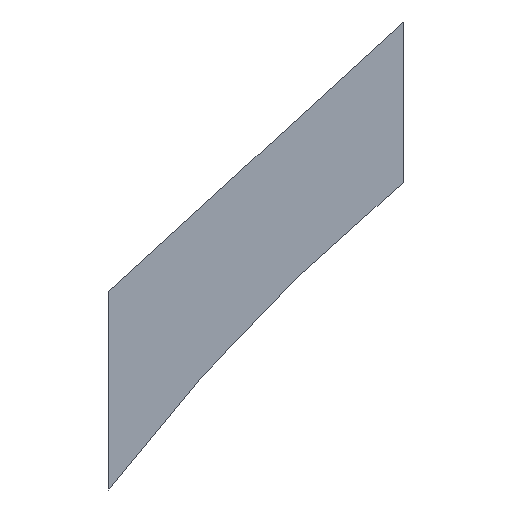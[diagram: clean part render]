
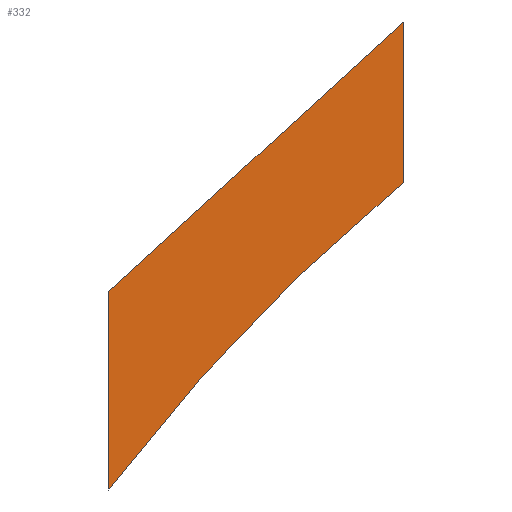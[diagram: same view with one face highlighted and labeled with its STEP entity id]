
A CAD part, left-side view. The second image highlights one B-rep face of the part: STEP entity #332.
In plain terms, the highlighted planar face has unit normal (-1, 0, 0).
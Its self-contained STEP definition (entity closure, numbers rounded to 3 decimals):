
#45 = CYLINDRICAL_SURFACE('',#46,17.7);
#46 = AXIS2_PLACEMENT_3D('',#47,#48,#49);
#47 = CARTESIAN_POINT('',(95.3,0.,0.));
#48 = DIRECTION('',(1.,0.,0.));
#49 = DIRECTION('',(-0.,0.,1.));
#73 = PLANE('',#74);
#74 = AXIS2_PLACEMENT_3D('',#75,#76,#77);
#75 = CARTESIAN_POINT('',(96.3,14.1,0.));
#76 = DIRECTION('',(-0.,1.,0.));
#77 = DIRECTION('',(0.,0.,1.));
#101 = PLANE('',#102);
#102 = AXIS2_PLACEMENT_3D('',#103,#104,#105);
#103 = CARTESIAN_POINT('',(96.3,-3.45,28.657));
#104 = DIRECTION('',(-0.,0.675,0.737));
#105 = DIRECTION('',(0.,0.737,-0.675));
#127 = PLANE('',#128);
#128 = AXIS2_PLACEMENT_3D('',#129,#130,#131);
#129 = CARTESIAN_POINT('',(96.3,11.3,0.));
#130 = DIRECTION('',(-0.,1.,0.));
#131 = DIRECTION('',(0.,0.,1.));
#144 = VERTEX_POINT('',#145);
#145 = CARTESIAN_POINT('',(96.3,14.1,10.7));
#164 = EDGE_CURVE('',#144,#165,#167,.T.);
#165 = VERTEX_POINT('',#166);
#166 = CARTESIAN_POINT('',(96.3,11.3,13.624));
#167 = SURFACE_CURVE('',#168,(#173,#180),.PCURVE_S1.);
#168 = CIRCLE('',#169,17.7);
#169 = AXIS2_PLACEMENT_3D('',#170,#171,#172);
#170 = CARTESIAN_POINT('',(96.3,0.,0.));
#171 = DIRECTION('',(1.,0.,0.));
#172 = DIRECTION('',(-0.,0.,1.));
#173 = PCURVE('',#45,#174);
#174 = DEFINITIONAL_REPRESENTATION('',(#175),#179);
#175 = LINE('',#176,#177);
#176 = CARTESIAN_POINT('',(0.,1.));
#177 = VECTOR('',#178,1.);
#178 = DIRECTION('',(1.,0.));
#179 = ( GEOMETRIC_REPRESENTATION_CONTEXT(2) 
PARAMETRIC_REPRESENTATION_CONTEXT() REPRESENTATION_CONTEXT('2D SPACE',''
  ) );
#180 = PCURVE('',#181,#186);
#181 = PLANE('',#182);
#182 = AXIS2_PLACEMENT_3D('',#183,#184,#185);
#183 = CARTESIAN_POINT('',(96.3,0.,0.));
#184 = DIRECTION('',(1.,0.,0.));
#185 = DIRECTION('',(-0.,0.,1.));
#186 = DEFINITIONAL_REPRESENTATION('',(#187),#191);
#187 = CIRCLE('',#188,17.7);
#188 = AXIS2_PLACEMENT_2D('',#189,#190);
#189 = CARTESIAN_POINT('',(0.,0.));
#190 = DIRECTION('',(1.,0.));
#191 = ( GEOMETRIC_REPRESENTATION_CONTEXT(2) 
PARAMETRIC_REPRESENTATION_CONTEXT() REPRESENTATION_CONTEXT('2D SPACE',''
  ) );
#217 = EDGE_CURVE('',#165,#218,#220,.T.);
#218 = VERTEX_POINT('',#219);
#219 = CARTESIAN_POINT('',(96.3,11.3,15.15));
#220 = SURFACE_CURVE('',#221,(#225,#232),.PCURVE_S1.);
#221 = LINE('',#222,#223);
#222 = CARTESIAN_POINT('',(96.3,11.3,0.));
#223 = VECTOR('',#224,1.);
#224 = DIRECTION('',(0.,0.,1.));
#225 = PCURVE('',#127,#226);
#226 = DEFINITIONAL_REPRESENTATION('',(#227),#231);
#227 = LINE('',#228,#229);
#228 = CARTESIAN_POINT('',(0.,0.));
#229 = VECTOR('',#230,1.);
#230 = DIRECTION('',(1.,0.));
#231 = ( GEOMETRIC_REPRESENTATION_CONTEXT(2) 
PARAMETRIC_REPRESENTATION_CONTEXT() REPRESENTATION_CONTEXT('2D SPACE',''
  ) );
#232 = PCURVE('',#181,#233);
#233 = DEFINITIONAL_REPRESENTATION('',(#234),#238);
#234 = LINE('',#235,#236);
#235 = CARTESIAN_POINT('',(0.,-11.3));
#236 = VECTOR('',#237,1.);
#237 = DIRECTION('',(1.,0.));
#238 = ( GEOMETRIC_REPRESENTATION_CONTEXT(2) 
PARAMETRIC_REPRESENTATION_CONTEXT() REPRESENTATION_CONTEXT('2D SPACE',''
  ) );
#262 = EDGE_CURVE('',#218,#263,#265,.T.);
#263 = VERTEX_POINT('',#264);
#264 = CARTESIAN_POINT('',(96.3,14.1,12.586));
#265 = SURFACE_CURVE('',#266,(#270,#277),.PCURVE_S1.);
#266 = LINE('',#267,#268);
#267 = CARTESIAN_POINT('',(96.3,-3.45,28.657));
#268 = VECTOR('',#269,1.);
#269 = DIRECTION('',(0.,0.737,-0.675));
#270 = PCURVE('',#101,#271);
#271 = DEFINITIONAL_REPRESENTATION('',(#272),#276);
#272 = LINE('',#273,#274);
#273 = CARTESIAN_POINT('',(0.,0.));
#274 = VECTOR('',#275,1.);
#275 = DIRECTION('',(1.,0.));
#276 = ( GEOMETRIC_REPRESENTATION_CONTEXT(2) 
PARAMETRIC_REPRESENTATION_CONTEXT() REPRESENTATION_CONTEXT('2D SPACE',''
  ) );
#277 = PCURVE('',#181,#278);
#278 = DEFINITIONAL_REPRESENTATION('',(#279),#283);
#279 = LINE('',#280,#281);
#280 = CARTESIAN_POINT('',(28.657,3.45));
#281 = VECTOR('',#282,1.);
#282 = DIRECTION('',(-0.675,-0.737));
#283 = ( GEOMETRIC_REPRESENTATION_CONTEXT(2) 
PARAMETRIC_REPRESENTATION_CONTEXT() REPRESENTATION_CONTEXT('2D SPACE',''
  ) );
#311 = EDGE_CURVE('',#144,#263,#312,.T.);
#312 = SURFACE_CURVE('',#313,(#317,#324),.PCURVE_S1.);
#313 = LINE('',#314,#315);
#314 = CARTESIAN_POINT('',(96.3,14.1,0.));
#315 = VECTOR('',#316,1.);
#316 = DIRECTION('',(0.,0.,1.));
#317 = PCURVE('',#73,#318);
#318 = DEFINITIONAL_REPRESENTATION('',(#319),#323);
#319 = LINE('',#320,#321);
#320 = CARTESIAN_POINT('',(0.,0.));
#321 = VECTOR('',#322,1.);
#322 = DIRECTION('',(1.,0.));
#323 = ( GEOMETRIC_REPRESENTATION_CONTEXT(2) 
PARAMETRIC_REPRESENTATION_CONTEXT() REPRESENTATION_CONTEXT('2D SPACE',''
  ) );
#324 = PCURVE('',#181,#325);
#325 = DEFINITIONAL_REPRESENTATION('',(#326),#330);
#326 = LINE('',#327,#328);
#327 = CARTESIAN_POINT('',(0.,-14.1));
#328 = VECTOR('',#329,1.);
#329 = DIRECTION('',(1.,0.));
#330 = ( GEOMETRIC_REPRESENTATION_CONTEXT(2) 
PARAMETRIC_REPRESENTATION_CONTEXT() REPRESENTATION_CONTEXT('2D SPACE',''
  ) );
#332 = ADVANCED_FACE('',(#333),#181,.F.);
#333 = FACE_BOUND('',#334,.F.);
#334 = EDGE_LOOP('',(#335,#336,#337,#338));
#335 = ORIENTED_EDGE('',*,*,#164,.F.);
#336 = ORIENTED_EDGE('',*,*,#311,.T.);
#337 = ORIENTED_EDGE('',*,*,#262,.F.);
#338 = ORIENTED_EDGE('',*,*,#217,.F.);
